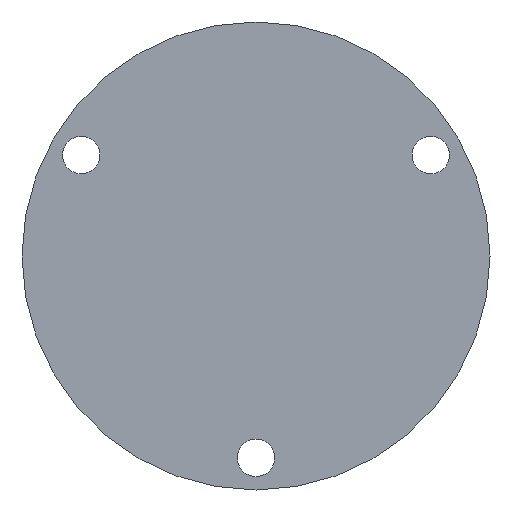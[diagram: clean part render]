
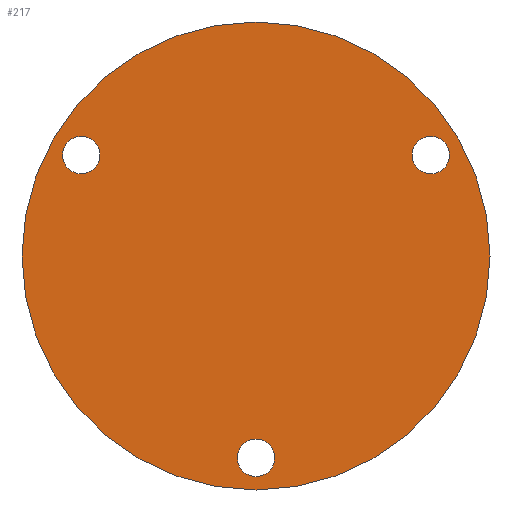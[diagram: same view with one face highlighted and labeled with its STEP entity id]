
A CAD part, front view. The second image highlights one B-rep face of the part: STEP entity #217.
In plain terms, the highlighted planar face has unit normal (0, -1, 0).
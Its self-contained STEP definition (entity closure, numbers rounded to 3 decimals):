
#11 = EDGE_CURVE ( 'NONE', #377, #685, #357, .T. ) ;
#13 = CARTESIAN_POINT ( 'NONE',  ( 0., 0., -17.25 ) ) ;
#26 = DIRECTION ( 'NONE',  ( 0.866, 0., -0.5 ) ) ;
#35 = CARTESIAN_POINT ( 'NONE',  ( 0., 0., 0. ) ) ;
#48 = VERTEX_POINT ( 'NONE', #510 ) ;
#52 = DIRECTION ( 'NONE',  ( 0., 1., 0. ) ) ;
#61 = DIRECTION ( 'NONE',  ( 0., 0., 1. ) ) ;
#62 = DIRECTION ( 'NONE',  ( 0., 1., 0. ) ) ;
#66 = AXIS2_PLACEMENT_3D ( 'NONE', #35, #735, #150 ) ;
#74 = DIRECTION ( 'NONE',  ( 0., 0., 1. ) ) ;
#78 = AXIS2_PLACEMENT_3D ( 'NONE', #540, #363, #74 ) ;
#87 = EDGE_LOOP ( 'NONE', ( #274, #408 ) ) ;
#89 = VERTEX_POINT ( 'NONE', #514 ) ;
#92 = CARTESIAN_POINT ( 'NONE',  ( 0., 0., 0. ) ) ;
#95 = EDGE_LOOP ( 'NONE', ( #326, #443 ) ) ;
#135 = EDGE_CURVE ( 'NONE', #629, #554, #186, .T. ) ;
#136 = DIRECTION ( 'NONE',  ( 0., 0., 1. ) ) ;
#137 = ORIENTED_EDGE ( 'NONE', *, *, #427, .T. ) ;
#139 = AXIS2_PLACEMENT_3D ( 'NONE', #395, #225, #454 ) ;
#143 = AXIS2_PLACEMENT_3D ( 'NONE', #551, #733, #26 ) ;
#150 = DIRECTION ( 'NONE',  ( 0., 0., -1. ) ) ;
#158 = AXIS2_PLACEMENT_3D ( 'NONE', #701, #641, #241 ) ;
#161 = CARTESIAN_POINT ( 'NONE',  ( 0., 0., -20. ) ) ;
#176 = EDGE_CURVE ( 'NONE', #89, #371, #229, .T. ) ;
#186 = CIRCLE ( 'NONE', #286, 1.6 ) ;
#212 = EDGE_CURVE ( 'NONE', #554, #629, #385, .T. ) ;
#213 = ORIENTED_EDGE ( 'NONE', *, *, #176, .T. ) ;
#217 = ADVANCED_FACE ( 'NONE', ( #479, #656, #251, #485 ), #365, .F. ) ;
#223 = CARTESIAN_POINT ( 'NONE',  ( -14.939, 0., 7.025 ) ) ;
#225 = DIRECTION ( 'NONE',  ( 0., -1., 0. ) ) ;
#228 = DIRECTION ( 'NONE',  ( -0.866, 0., -0.5 ) ) ;
#229 = CIRCLE ( 'NONE', #158, 1.6 ) ;
#241 = DIRECTION ( 'NONE',  ( 0.866, 0., -0.5 ) ) ;
#251 = FACE_BOUND ( 'NONE', #87, .T. ) ;
#252 = ORIENTED_EDGE ( 'NONE', *, *, #11, .T. ) ;
#274 = ORIENTED_EDGE ( 'NONE', *, *, #135, .T. ) ;
#286 = AXIS2_PLACEMENT_3D ( 'NONE', #13, #62, #61 ) ;
#316 = EDGE_LOOP ( 'NONE', ( #252, #137 ) ) ;
#326 = ORIENTED_EDGE ( 'NONE', *, *, #476, .T. ) ;
#346 = DIRECTION ( 'NONE',  ( 0., 1., 0. ) ) ;
#351 = DIRECTION ( 'NONE',  ( -0.866, 0., -0.5 ) ) ;
#357 = CIRCLE ( 'NONE', #139, 20. ) ;
#363 = DIRECTION ( 'NONE',  ( 0., 1., 0. ) ) ;
#365 = PLANE ( 'NONE',  #589 ) ;
#371 = VERTEX_POINT ( 'NONE', #223 ) ;
#377 = VERTEX_POINT ( 'NONE', #161 ) ;
#380 = ORIENTED_EDGE ( 'NONE', *, *, #719, .T. ) ;
#385 = CIRCLE ( 'NONE', #78, 1.6 ) ;
#395 = CARTESIAN_POINT ( 'NONE',  ( 0., 0., 0. ) ) ;
#405 = CARTESIAN_POINT ( 'NONE',  ( 14.939, 0., 8.625 ) ) ;
#408 = ORIENTED_EDGE ( 'NONE', *, *, #212, .T. ) ;
#427 = EDGE_CURVE ( 'NONE', #685, #377, #729, .T. ) ;
#443 = ORIENTED_EDGE ( 'NONE', *, *, #532, .T. ) ;
#454 = DIRECTION ( 'NONE',  ( 0., 0., -1. ) ) ;
#470 = AXIS2_PLACEMENT_3D ( 'NONE', #581, #52, #351 ) ;
#476 = EDGE_CURVE ( 'NONE', #48, #493, #707, .T. ) ;
#479 = FACE_BOUND ( 'NONE', #628, .T. ) ;
#485 = FACE_OUTER_BOUND ( 'NONE', #316, .T. ) ;
#488 = CARTESIAN_POINT ( 'NONE',  ( 0., 0., 20. ) ) ;
#493 = VERTEX_POINT ( 'NONE', #700 ) ;
#510 = CARTESIAN_POINT ( 'NONE',  ( 14.939, 0., 10.225 ) ) ;
#514 = CARTESIAN_POINT ( 'NONE',  ( -14.939, 0., 10.225 ) ) ;
#532 = EDGE_CURVE ( 'NONE', #493, #48, #643, .T. ) ;
#540 = CARTESIAN_POINT ( 'NONE',  ( 0., 0., -17.25 ) ) ;
#551 = CARTESIAN_POINT ( 'NONE',  ( -14.939, 0., 8.625 ) ) ;
#554 = VERTEX_POINT ( 'NONE', #593 ) ;
#572 = AXIS2_PLACEMENT_3D ( 'NONE', #405, #346, #228 ) ;
#581 = CARTESIAN_POINT ( 'NONE',  ( 14.939, 0., 8.625 ) ) ;
#589 = AXIS2_PLACEMENT_3D ( 'NONE', #92, #720, #136 ) ;
#593 = CARTESIAN_POINT ( 'NONE',  ( 0., 0., -18.85 ) ) ;
#628 = EDGE_LOOP ( 'NONE', ( #213, #380 ) ) ;
#629 = VERTEX_POINT ( 'NONE', #709 ) ;
#641 = DIRECTION ( 'NONE',  ( 0., 1., 0. ) ) ;
#643 = CIRCLE ( 'NONE', #572, 1.6 ) ;
#656 = FACE_BOUND ( 'NONE', #95, .T. ) ;
#664 = CIRCLE ( 'NONE', #143, 1.6 ) ;
#685 = VERTEX_POINT ( 'NONE', #488 ) ;
#700 = CARTESIAN_POINT ( 'NONE',  ( 14.939, 0., 7.025 ) ) ;
#701 = CARTESIAN_POINT ( 'NONE',  ( -14.939, 0., 8.625 ) ) ;
#707 = CIRCLE ( 'NONE', #470, 1.6 ) ;
#709 = CARTESIAN_POINT ( 'NONE',  ( 0., 0., -15.65 ) ) ;
#719 = EDGE_CURVE ( 'NONE', #371, #89, #664, .T. ) ;
#720 = DIRECTION ( 'NONE',  ( 0., 1., 0. ) ) ;
#729 = CIRCLE ( 'NONE', #66, 20. ) ;
#733 = DIRECTION ( 'NONE',  ( 0., 1., 0. ) ) ;
#735 = DIRECTION ( 'NONE',  ( 0., -1., 0. ) ) ;
